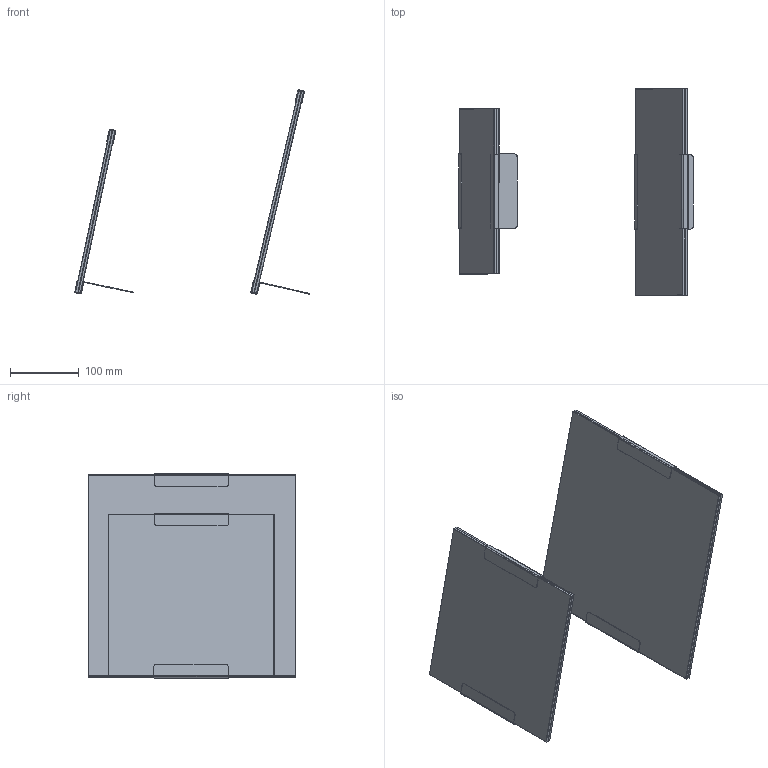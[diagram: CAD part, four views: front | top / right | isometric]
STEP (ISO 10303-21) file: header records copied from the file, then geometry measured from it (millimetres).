
FILE_DESCRIPTION(/* description */ (''),/* implementation_level */ '2;1');
FILE_NAME(/* name */ 'GALAPAGOS',/* time_stamp */ '2017-05-22T12:25:08+02:00',/* author */ (''),/* organization */ (''),/* preprocessor_version */ 'ST-DEVELOPER v10',/* originating_system */ '',/* authorisation */ '');
FILE_SCHEMA (('CONFIG_CONTROL_DESIGN'));
Length unit declared in the file: millimetre
Products named in the file (1): 1
Bounding box: 340.07 x 300 x 296.54 mm (x, y, z)
Volume: 1219210.3 mm3; surface area: 685902.2 mm2
Topology: 9 solids, 9 shells, 154 faces, 376 edges, 240 vertices
Faces by surface type: plane 110, bspline 44
Entity records: 3952 total; most frequent: CARTESIAN_POINT 1456, ORIENTED_EDGE 752, EDGE_CURVE 376, VERTEX_POINT 240, B_SPLINE_CURVE_WITH_KNOTS 228, ADVANCED_FACE 154, FACE_OUTER_BOUND 154, EDGE_LOOP 154
